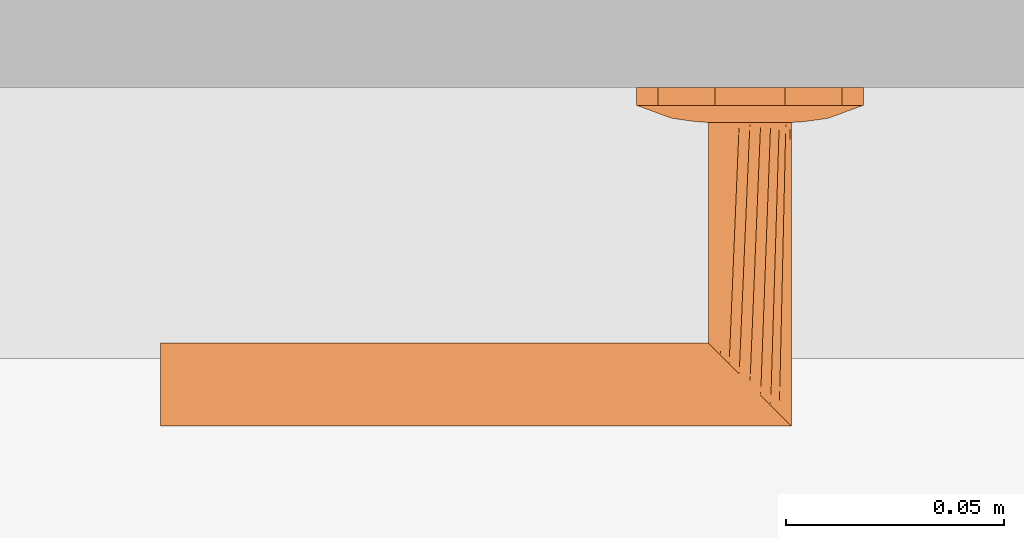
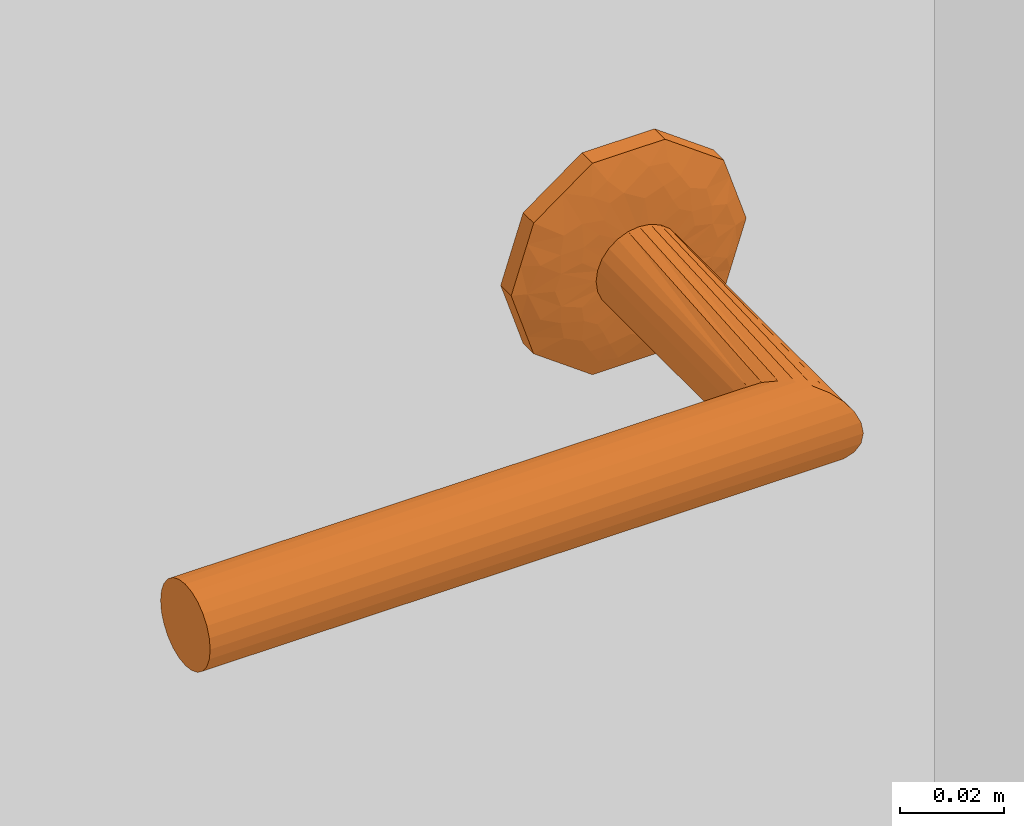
# One storey, part 45 of 68: 1 proxy.
"""IFC2X3 building model written with IfcOpenShell, lengths in millimetres."""

from ifc_helpers import new_model, entity, si_unit, converted_unit, direction, frame, origin, place, context, subcontext, project, spatial, faceted_brep, source, transform, mapped, material, type_object, type_shapes, element, save


model = new_model("IFC2X3")

# Units and contexts
model_context = context("Model", 3, precision=0.01, world=origin(), true_north=direction((6.123233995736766e-17, 1.0)))
plan_context = context("Plan", 3, precision=0.01, world=origin(), true_north=direction((6.123233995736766e-17, 1.0)))
body_context = subcontext(model_context, "Body", "Model", "MODEL_VIEW")
ifc_project = project(units=[si_unit("LENGTHUNIT", "METRE", prefix="MILLI"), converted_unit("PLANEANGLEUNIT", "DEGREE", entity("IfcPlaneAngleMeasure", 0.017453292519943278), si_unit("PLANEANGLEUNIT", "RADIAN"), dimensions=[0, 0, 0, 0, 0, 0, 0]), si_unit("AREAUNIT", "SQUARE_METRE")], contexts=[model_context, plan_context])

# Site, building, storey
site_placement = place(None, origin())
site = spatial("IfcSite", under=ifc_project, at=site_placement, Name="Default", CompositionType="ELEMENT")
building_placement = place(site_placement, origin())
building = spatial("IfcBuilding", under=site, at=building_placement, CompositionType="ELEMENT")
storey_placement = place(building_placement, frame((0.0, 0.0, 6295.0)))
storey = spatial("IfcBuildingStorey", under=building, at=storey_placement, Name="3K", CompositionType="ELEMENT", Elevation=6294.999999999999)

# Proxy
ifc_material = material(Name="<Unnamed>")
building_element_proxy_type = type_object("IfcBuildingElementProxyType", Name="Door-handle_Lever_ABLOY_INOXI_3-19ss-002_RT:Default", PredefinedType="NOTDEFINED", material=ifc_material)
shared_shape = source(origin(), body_context, "Body", "Brep", [
    faceted_brep([(0.0, 0.0, 0.0), (21.034441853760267, -15.282416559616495, 0.0), (14.534441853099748, -20.00494299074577, 0.0), (8.034441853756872, -24.72746942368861, 0.0), (0.0, -24.72746942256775, 0.0), (23.51722092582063, -7.6412082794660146, 0.0), (26.0, 0.0, 0.0), (-8.034441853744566, -24.727469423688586, 0.0), (-14.534441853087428, -20.00494299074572, 0.0), (-21.03444185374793, -15.282416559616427, 0.0), (-23.517220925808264, -7.641208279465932, 0.0), (-26.0, 0.0, 0.0), (-23.517220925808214, 7.641208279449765, 0.0), (23.517220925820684, 7.641208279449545, 0.0), (21.034441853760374, 15.282416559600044, 0.0), (14.53444185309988, 20.00494299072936, 0.0), (8.034441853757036, 24.72746942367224, 0.0), (-21.034441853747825, 15.282416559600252, 0.0), (-14.53444185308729, 20.004942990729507, 0.0), (-8.0344418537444, 24.72746942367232, 0.0), (0.0, 24.72746942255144, 0.0), (0.0, 0.0, 8.0), (4.7500000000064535, -8.227241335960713, 8.0), (5.937500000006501, -6.170431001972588, 8.0), (7.125000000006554, -4.113620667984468, 8.0), (8.312500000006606, -2.0568103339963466, 8.0), (9.500000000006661, 0.0, 8.0), (8.312500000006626, 2.056810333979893, 8.0), (2.3750000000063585, -8.227241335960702, 8.0), (0.0, -8.227241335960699, 8.0), (-2.3749999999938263, -8.227241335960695, 8.0), (-4.749999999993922, -8.227241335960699, 8.0), (-5.937499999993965, -6.170431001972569, 8.0), (-7.124999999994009, -4.113620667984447, 8.0), (-8.312499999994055, -2.056810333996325, 8.0), (-9.499999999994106, 0.0, 8.0), (7.125000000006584, 4.113620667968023, 8.0), (5.937500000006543, 6.170431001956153, 8.0), (4.750000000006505, 8.227241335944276, 8.0), (2.3750000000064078, 8.22724133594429, 8.0), (-8.31249999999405, 2.0568103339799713, 8.0), (-7.12499999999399, 4.113620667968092, 8.0), (-5.9374999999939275, 6.170431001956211, 8.0), (-4.74999999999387, 8.227241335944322, 8.0), (0.0, 8.227241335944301, 8.0), (-2.374999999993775, 8.227241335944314, 8.0), (-22.488765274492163, -10.806469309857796, 4.030771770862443), (-16.663919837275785, -7.932665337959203, 6.877259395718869), (-20.643071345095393, -6.292822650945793, 5.929480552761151), (-12.50457926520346, -5.179566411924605, 7.774932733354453), (-16.764060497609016, -3.820257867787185, 7.1747985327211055), (-9.071726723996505, -10.311606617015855, 7.7520782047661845), (-11.963426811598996, -8.625290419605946, 7.618343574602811), (-11.979136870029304, -13.678312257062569, 6.945778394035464), (5.7585542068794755, -20.96753300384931, 5.871476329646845), (0.0, -24.72746942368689, 4.030771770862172), (8.03444185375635, -24.727469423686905, 4.030771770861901), (16.66391982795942, -7.932665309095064, 6.877259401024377), (22.488765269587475, -10.806469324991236, 4.03077177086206), (20.64307133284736, -6.29282258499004, 5.929480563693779), (14.534441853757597, -20.004942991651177, 4.030771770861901), (9.499431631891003, -18.64368355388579, 6.154325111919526), (-15.783149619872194, -11.991003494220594, 6.50080018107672), (-21.034441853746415, -15.282416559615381, 4.030771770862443), (-14.53444185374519, -20.00494299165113, 4.030771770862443), (-23.012042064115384, 0.0, 5.135401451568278), (-23.943088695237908, -6.330522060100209, 4.030771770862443), (11.96342678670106, -8.62529049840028, 7.618343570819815), (12.504579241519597, -5.179566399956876, 7.774932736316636), (16.764060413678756, -3.8202578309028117, 7.17479855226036), (15.783149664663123, -11.991003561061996, 6.50080015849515), (17.985351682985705, 0.0, 6.993737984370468), (23.012042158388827, 0.0, 5.135401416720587), (8.661516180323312, -10.478936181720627, 7.768126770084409), (-8.03444185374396, -24.727469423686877, 4.030771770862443), (-3.3573143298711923, -21.197247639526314, 5.971427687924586), (-9.941915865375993, -17.061976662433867, 6.522757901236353), (-5.973257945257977, -16.430139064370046, 7.110979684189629), (-7.711266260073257, -12.760344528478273, 7.594456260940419), (11.979136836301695, -13.678312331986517, 6.945778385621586), (7.511307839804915, -13.358932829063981, 7.529187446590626), (5.953298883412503, -16.50608604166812, 7.096344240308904), (-1.5654593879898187, -15.307443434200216, 7.519134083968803), (-7.784980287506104, -20.476295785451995, 5.812837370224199), (2.8135289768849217, -17.76392260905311, 6.993737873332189), (-17.98535168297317, 0.0, 6.993737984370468), (-26.0, 0.0, 4.030771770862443), (-23.51722092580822, -7.641208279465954, 4.030771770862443), (23.943088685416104, -6.33052209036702, 4.030771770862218), (24.308823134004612, -5.204907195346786, 4.030771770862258), (26.0, 0.0, 4.030771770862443), (21.03444185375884, -15.282416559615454, 4.030771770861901), (22.617646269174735, -10.40981439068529, 4.030771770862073), (22.488765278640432, 10.806469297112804, 4.030771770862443), (16.66391984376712, 7.932665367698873, 6.877259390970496), (20.643071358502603, 6.292822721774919, 5.929480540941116), (12.504579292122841, 5.179566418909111, 7.774932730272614), (16.764060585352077, 3.8202579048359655, 7.174798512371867), (9.07172672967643, 10.31160659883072, 7.752078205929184), (11.963426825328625, 8.62529034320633, 7.618343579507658), (11.979136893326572, 13.67831220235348, 6.9457784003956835), (-5.758554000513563, 20.96753314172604, 5.8714763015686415), (0.0, 24.72746942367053, 4.030771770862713), (-8.03444185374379, 24.72746942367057, 4.030771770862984), (-16.663919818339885, 7.932665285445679, 6.877259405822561), (-22.48876526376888, 10.806469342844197, 4.030771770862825), (-20.643071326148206, 6.2928225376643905, 5.929480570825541), (-14.534441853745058, 20.004942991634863, 4.030771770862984), (-9.499431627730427, 18.643683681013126, 6.154325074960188), (15.783149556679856, 11.991003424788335, 6.5008002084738), (21.03444185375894, 15.282416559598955, 4.030771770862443), (14.534441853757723, 20.004942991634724, 4.030771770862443), (23.943088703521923, 6.330522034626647, 4.030771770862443), (-11.96342675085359, 8.625290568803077, 7.618343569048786), (-12.504579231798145, 5.179566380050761, 7.77493273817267), (-16.764060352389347, 3.820257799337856, 7.174798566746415), (-15.78314967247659, 11.991003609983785, 6.500800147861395), (-8.661516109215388, 10.478936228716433, 7.768126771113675), (8.034441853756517, 24.727469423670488, 4.030771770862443), (3.3573144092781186, 21.197247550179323, 5.971427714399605), (9.941915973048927, 17.061976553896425, 6.522757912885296), (5.9732581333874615, 16.430139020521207, 7.110979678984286), (7.711266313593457, 12.760344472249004, 7.5944562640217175), (-11.979136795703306, 13.678312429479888, 6.945778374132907), (-7.511307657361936, 13.358932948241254, 7.5291874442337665), (-5.9532988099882, 16.50608628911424, 7.096344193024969), (1.5654596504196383, 15.3074431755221, 7.519134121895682), (7.784980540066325, 20.476295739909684, 5.812837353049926), (-2.81352881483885, 17.76392263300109, 6.993737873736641), (23.51722092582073, 7.6412082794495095, 4.030771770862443), (-23.94308867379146, 6.330522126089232, 4.030771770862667), (-24.308823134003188, 5.20490719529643, 4.030771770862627), (-21.034441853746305, 15.282416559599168, 4.030771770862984), (-22.617646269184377, 10.409814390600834, 4.0307717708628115)], [[[0, 1, 2]], [[0, 2, 3]], [[0, 3, 4]], [[0, 5, 1]], [[0, 6, 5]], [[0, 4, 7]], [[0, 7, 8]], [[0, 8, 9]], [[0, 9, 10]], [[0, 10, 11]], [[0, 11, 12]], [[0, 13, 6]], [[0, 14, 13]], [[0, 15, 14]], [[0, 16, 15]], [[0, 12, 17]], [[0, 17, 18]], [[0, 18, 19]], [[0, 19, 20]], [[0, 20, 16]], [[21, 22, 23]], [[21, 23, 24]], [[21, 24, 25]], [[21, 25, 26]], [[21, 26, 27]], [[21, 28, 22]], [[21, 29, 28]], [[21, 30, 29]], [[21, 31, 30]], [[21, 32, 31]], [[21, 33, 32]], [[21, 34, 33]], [[21, 35, 34]], [[21, 27, 36]], [[21, 36, 37]], [[21, 37, 38]], [[21, 38, 39]], [[21, 40, 35]], [[21, 41, 40]], [[21, 42, 41]], [[21, 43, 42]], [[21, 39, 44]], [[21, 44, 45]], [[21, 45, 43]], [[46, 47, 48]], [[47, 49, 50]], [[49, 33, 34]], [[51, 52, 53]], [[49, 52, 33]], [[48, 47, 50]], [[54, 55, 56]], [[57, 58, 59]], [[56, 60, 61]], [[62, 63, 64]], [[65, 66, 48]], [[67, 57, 68]], [[68, 69, 25]], [[57, 67, 70]], [[69, 26, 25]], [[62, 53, 52]], [[71, 69, 72]], [[67, 23, 73]], [[74, 55, 75]], [[76, 77, 78]], [[79, 60, 70]], [[69, 59, 72]], [[80, 81, 61]], [[77, 30, 78]], [[82, 30, 77]], [[28, 80, 22]], [[77, 83, 75]], [[75, 82, 77]], [[55, 84, 75]], [[85, 50, 35]], [[24, 68, 25]], [[82, 84, 29]], [[84, 82, 75]], [[31, 78, 30]], [[82, 29, 30]], [[34, 35, 50]], [[52, 49, 47]], [[62, 52, 47]], [[34, 50, 49]], [[53, 78, 51]], [[32, 33, 52]], [[85, 65, 50]], [[66, 65, 86]], [[67, 68, 24]], [[77, 76, 83]], [[65, 48, 50]], [[63, 62, 46]], [[48, 66, 87, 46]], [[62, 47, 46]], [[69, 68, 57]], [[80, 73, 22]], [[70, 67, 79]], [[67, 24, 23]], [[72, 88, 89, 90]], [[69, 71, 26]], [[59, 69, 57]], [[61, 60, 79]], [[62, 64, 53]], [[91, 58, 70]], [[72, 59, 88]], [[57, 70, 58]], [[59, 58, 92]], [[80, 61, 79]], [[91, 70, 60]], [[61, 81, 54]], [[73, 80, 79]], [[28, 84, 81]], [[67, 73, 79]], [[29, 84, 28]], [[22, 73, 23]], [[51, 31, 32]], [[76, 78, 53]], [[53, 64, 76]], [[83, 64, 74]], [[64, 83, 76]], [[75, 83, 74]], [[31, 51, 78]], [[52, 51, 32]], [[28, 81, 80]], [[54, 81, 84]], [[55, 54, 84]], [[61, 54, 56]], [[93, 94, 95]], [[94, 96, 97]], [[96, 36, 27]], [[98, 99, 100]], [[96, 99, 36]], [[95, 94, 97]], [[101, 102, 103]], [[104, 105, 106]], [[103, 107, 108]], [[109, 110, 111]], [[72, 112, 95]], [[113, 104, 114]], [[114, 115, 40]], [[104, 113, 116]], [[115, 35, 40]], [[109, 100, 99]], [[85, 115, 65]], [[113, 42, 117]], [[118, 102, 119]], [[120, 121, 122]], [[123, 107, 116]], [[115, 106, 65]], [[124, 125, 108]], [[121, 39, 122]], [[126, 39, 121]], [[45, 124, 43]], [[121, 127, 119]], [[119, 126, 121]], [[102, 128, 119]], [[71, 97, 26]], [[41, 114, 40]], [[126, 128, 44]], [[128, 126, 119]], [[38, 122, 39]], [[126, 44, 39]], [[27, 26, 97]], [[99, 96, 94]], [[109, 99, 94]], [[27, 97, 96]], [[100, 122, 98]], [[37, 36, 99]], [[71, 72, 97]], [[112, 72, 90]], [[113, 114, 41]], [[121, 120, 127]], [[72, 95, 97]], [[110, 109, 93]], [[95, 112, 129, 93]], [[109, 94, 93]], [[115, 114, 104]], [[124, 117, 43]], [[116, 113, 123]], [[113, 41, 42]], [[65, 130, 131, 86]], [[115, 85, 35]], [[106, 115, 104]], [[108, 107, 123]], [[109, 111, 100]], [[132, 105, 116]], [[65, 106, 130]], [[104, 116, 105]], [[106, 105, 133]], [[124, 108, 123]], [[132, 116, 107]], [[108, 125, 101]], [[117, 124, 123]], [[45, 128, 125]], [[113, 117, 123]], [[44, 128, 45]], [[43, 117, 42]], [[98, 38, 37]], [[120, 122, 100]], [[100, 111, 120]], [[127, 111, 118]], [[111, 127, 120]], [[119, 127, 118]], [[38, 98, 122]], [[99, 98, 37]], [[45, 125, 124]], [[101, 125, 128]], [[102, 101, 128]], [[108, 101, 103]], [[7, 74, 64, 63, 9, 8]], [[10, 9, 63, 46, 87, 66, 86, 11]], [[6, 90, 89, 88, 92, 1, 5]], [[1, 58, 91]], [[74, 7, 4, 3, 56, 55]], [[60, 56, 3, 2, 1, 91]], [[1, 92, 58]], [[14, 110, 93, 129, 112, 90, 6, 13]], [[111, 110, 14, 15, 16, 118]], [[11, 86, 131, 130, 133, 17, 12]], [[17, 105, 132]], [[118, 16, 20, 19, 103, 102]], [[107, 103, 19, 18, 17, 132]], [[17, 133, 105]], [[59, 92, 88]], [[106, 133, 130]]]),
    faceted_brep([(4.7499999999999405, -8.22724133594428, 8.0), (2.4587809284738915, -9.176295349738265, 8.0), (0.0, -9.499999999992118, 8.0), (-2.4587809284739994, -9.176295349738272, 8.0), (-4.7500000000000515, -8.227241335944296, 8.0), (-6.717514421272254, -6.717514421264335, 8.0), (-8.227241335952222, -4.74999999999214, 8.0), (-9.176295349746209, -2.4587809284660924, 8.0), (-9.500000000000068, 0.0, 8.0), (-9.176295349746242, 2.458780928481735, 8.0), (-8.227241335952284, 4.750000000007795, 8.0), (-6.717514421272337, 6.717514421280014, 8.0), (-4.750000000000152, 8.227241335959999, 8.0), (-2.4587809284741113, 9.176295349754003, 8.0), (0.0, 9.500000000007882, 8.0), (2.4587809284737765, 9.176295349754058, 8.0), (4.7499999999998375, 8.227241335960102, 8.0), (6.717514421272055, 6.717514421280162, 8.0), (8.22724133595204, 4.75000000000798, 8.0), (9.17629534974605, 2.458780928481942, 8.0), (9.499999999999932, 0.0, 8.0), (9.17629534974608, -2.458780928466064, 8.0), (8.227241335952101, -4.749999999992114, 8.0), (6.717514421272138, -6.7175144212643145, 8.0), (-8.227241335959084, 4.7499999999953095, 59.772758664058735), (-6.717514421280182, 6.7175144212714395, 61.282485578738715), (-9.176295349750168, 2.458780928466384, 58.82370465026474), (-4.750000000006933, 8.227241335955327, 63.25000000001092), (-2.4587809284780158, 9.176295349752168, 65.54121907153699), (-9.500000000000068, 0.0, 58.50000000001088), (0.0, 9.50000000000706, 68.0), (4.750000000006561, 8.227241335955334, 72.75000000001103), (2.4587809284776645, 9.17629534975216, 70.45878092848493), (6.717514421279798, 6.7175144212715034, 74.71751442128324), (8.22724133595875, 4.749999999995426, 76.22724133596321), (9.17629534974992, 2.458780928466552, 77.17629534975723), (9.499999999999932, 0.0, 77.50000000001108), (9.176295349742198, -2.4587809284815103, 77.1762953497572), (8.227241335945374, -4.750000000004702, 76.22724133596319), (6.7175144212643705, -6.717514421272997, 74.7175144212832), (4.749999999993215, -8.227241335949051, 72.75000000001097), (2.4587809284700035, -9.17629534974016, 70.45878092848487), (0.0, -9.49999999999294, 68.0), (-2.4587809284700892, -9.176295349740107, 65.54121907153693), (-4.749999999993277, -8.227241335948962, 63.250000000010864), (-6.717514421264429, -6.717514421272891, 61.282485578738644), (-9.176295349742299, -2.458780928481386, 58.8237046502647), (-8.227241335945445, -4.750000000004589, 59.77275866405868), (-135.0, -9.176295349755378, 70.4587809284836), (-135.0, -8.227241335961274, 72.75000000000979), (-135.0, -6.717514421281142, 74.71751442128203), (-135.0, -4.750000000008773, 76.22724133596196), (-135.0, -2.4587809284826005, 77.17629534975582), (-135.0, 0.0, 77.5000000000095), (-135.0, 2.4587809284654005, 77.17629534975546), (-135.0, 4.749999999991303, 76.22724133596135), (-135.0, 6.717514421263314, 74.71751442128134), (-135.0, 8.227241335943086, 72.75000000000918), (-135.0, 9.17629534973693, 70.45878092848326), (-135.0, 9.499999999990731, 68.0), (-135.0, 9.17629534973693, 65.54121907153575), (-135.0, 8.227241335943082, 63.250000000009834), (-135.0, 6.717514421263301, 61.28248557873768), (-135.0, 4.749999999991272, 59.772758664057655), (-135.0, 2.458780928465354, 58.823704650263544), (-135.0, 0.0, 58.50000000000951), (-135.0, -2.458780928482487, 58.82370465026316), (-135.0, -4.750000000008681, 59.772758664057), (-135.0, -6.7175144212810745, 61.28248557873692), (-135.0, -8.227241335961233, 63.25000000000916), (-135.0, -9.176295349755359, 65.54121907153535), (-135.0, -9.500000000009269, 68.0)], [[[0, 1, 2, 3, 4, 5, 6, 7, 8, 9, 10, 11, 12, 13, 14, 15, 16, 17, 18, 19, 20, 21, 22, 23]], [[24, 25, 11, 10]], [[26, 24, 10, 9]], [[14, 27, 28]], [[13, 27, 14]], [[25, 27, 13]], [[29, 26, 9, 8]], [[12, 11, 25]], [[25, 13, 12]], [[28, 30, 15]], [[31, 17, 32]], [[33, 18, 31]], [[19, 34, 35]], [[33, 34, 19]], [[20, 19, 35, 36]], [[16, 15, 30]], [[14, 28, 15]], [[19, 18, 33]], [[17, 31, 18]], [[17, 16, 32]], [[30, 32, 16]], [[20, 36, 37, 21]], [[38, 21, 37]], [[22, 39, 40]], [[38, 39, 21]], [[23, 40, 41]], [[39, 22, 21]], [[1, 42, 43]], [[42, 1, 0]], [[23, 41, 0]], [[23, 22, 40]], [[41, 42, 0]], [[44, 45, 3]], [[43, 44, 2]], [[46, 29, 8, 7]], [[47, 46, 7, 6]], [[45, 47, 6, 5]], [[45, 4, 3]], [[3, 2, 44]], [[5, 4, 45]], [[43, 2, 1]], [[48, 49, 50, 51, 52, 53, 54, 55, 56, 57, 58, 59, 60, 61, 62, 63, 64, 65, 66, 67, 68, 69, 70, 71]], [[64, 63, 24, 26]], [[65, 64, 26, 29]], [[61, 60, 28, 27]], [[62, 61, 27, 25]], [[63, 62, 25, 24]], [[59, 30, 28, 60]], [[57, 56, 33, 31]], [[58, 57, 31, 32]], [[54, 53, 36, 35]], [[55, 54, 35, 34]], [[56, 55, 34, 33]], [[32, 30, 59, 58]], [[52, 51, 38, 37]], [[53, 52, 37, 36]], [[49, 48, 41, 40]], [[50, 49, 40, 39]], [[51, 50, 39, 38]], [[42, 41, 48, 71]], [[69, 68, 45, 44]], [[70, 69, 44, 43]], [[66, 65, 29, 46]], [[67, 66, 46, 47]], [[68, 67, 47, 45]], [[42, 71, 70, 43]]]),
])
type_shapes(building_element_proxy_type, [shared_shape])
proxy_placement = place(storey_placement, frame((214.9935349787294, 8768.0, 1000.0), z_axis=(0.0, -1.0, 0.0), x_axis=(1.0, 0.0, 0.0)))
element("IfcBuildingElementProxy", 1, at=proxy_placement, inside=storey, type_object=building_element_proxy_type, material=ifc_material, Name="Door-handle_Lever_ABLOY_INOXI_3-19ss-002_RT:Default", ObjectType="Door-handle_Lever_ABLOY_INOXI_3-19ss-002_RT:Default", context=body_context, shape_type="MappedRepresentation", body=[
    mapped(shared_shape, transform((0.0, 0.0, 0.0), scale=1.0)),
])

save(model, "model.ifc")
